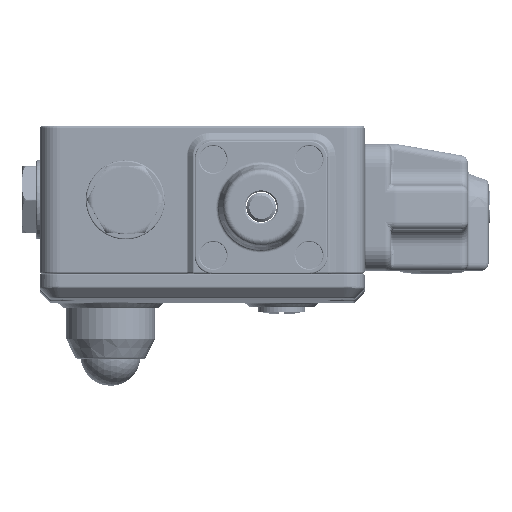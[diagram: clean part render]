
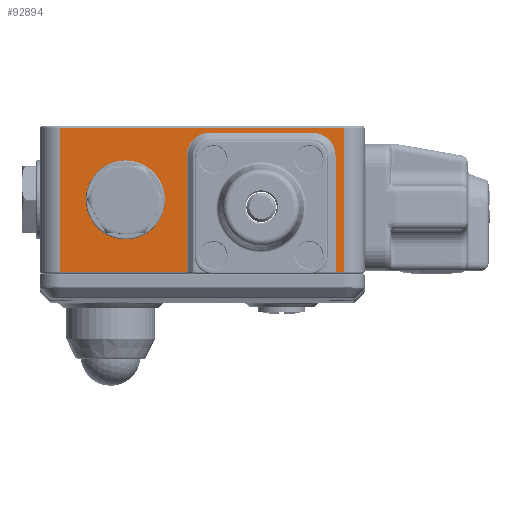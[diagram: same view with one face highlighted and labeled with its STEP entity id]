
A CAD part, left-side view. The second image highlights one B-rep face of the part: STEP entity #92894.
In plain terms, the highlighted planar face has unit normal (-1, 0, 0).
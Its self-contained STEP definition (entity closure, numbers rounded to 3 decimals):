
#579 = CARTESIAN_POINT ( 'NONE',  ( 0., -92.5, 47.707 ) ) ;
#828 = DIRECTION ( 'NONE',  ( 0., 1., 0. ) ) ;
#5669 = CARTESIAN_POINT ( 'NONE',  ( 0., -100.207, 50. ) ) ;
#5673 = ORIENTED_EDGE ( 'NONE', *, *, #161925, .T. ) ;
#5827 = DIRECTION ( 'NONE',  ( 0., 1., 0. ) ) ;
#11382 = ORIENTED_EDGE ( 'NONE', *, *, #161888, .T. ) ;
#12007 = CARTESIAN_POINT ( 'NONE',  ( 0., 0., 47.707 ) ) ;
#16550 = VERTEX_POINT ( 'NONE', #59656 ) ;
#19014 = CARTESIAN_POINT ( 'NONE',  ( 0., 0., 0.7 ) ) ;
#20240 = CARTESIAN_POINT ( 'NONE',  ( 0., -7., 49.3 ) ) ;
#21918 = AXIS2_PLACEMENT_3D ( 'NONE', #41845, #139207, #55820 ) ;
#22722 = VERTEX_POINT ( 'NONE', #109713 ) ;
#26872 = VECTOR ( 'NONE', #41609, 1000. ) ;
#27058 = DIRECTION ( 'NONE',  ( 1., 0., 0. ) ) ;
#27604 = ORIENTED_EDGE ( 'NONE', *, *, #43100, .T. ) ;
#27644 = CARTESIAN_POINT ( 'NONE',  ( 0., -103., 50. ) ) ;
#29023 = CIRCLE ( 'NONE', #63872, 7.707 ) ;
#29511 = ORIENTED_EDGE ( 'NONE', *, *, #81948, .T. ) ;
#30307 = CARTESIAN_POINT ( 'NONE',  ( 0., -49.793, 0.7 ) ) ;
#31184 = LINE ( 'NONE', #27644, #26872 ) ;
#39202 = LINE ( 'NONE', #19014, #71745 ) ;
#40272 = VERTEX_POINT ( 'NONE', #156531 ) ;
#41120 = VERTEX_POINT ( 'NONE', #107290 ) ;
#41609 = DIRECTION ( 'NONE',  ( 0., 0., 1. ) ) ;
#41845 = CARTESIAN_POINT ( 'NONE',  ( 0., -29., 25. ) ) ;
#42091 = ORIENTED_EDGE ( 'NONE', *, *, #46542, .T. ) ;
#42178 = CARTESIAN_POINT ( 'NONE',  ( 0., -7., 50. ) ) ;
#43100 = EDGE_CURVE ( 'NONE', #180505, #41120, #135935, .T. ) ;
#44917 = CARTESIAN_POINT ( 'NONE',  ( 0., -7., 0.7 ) ) ;
#46542 = EDGE_CURVE ( 'NONE', #59522, #16550, #178074, .T. ) ;
#47465 = LINE ( 'NONE', #66496, #80089 ) ;
#50439 = ORIENTED_EDGE ( 'NONE', *, *, #104370, .T. ) ;
#50473 = CARTESIAN_POINT ( 'NONE',  ( 0., -103., 0.7 ) ) ;
#55820 = DIRECTION ( 'NONE',  ( 0., 1., 0. ) ) ;
#56299 = PLANE ( 'NONE',  #86906 ) ;
#59522 = VERTEX_POINT ( 'NONE', #69491 ) ;
#59656 = CARTESIAN_POINT ( 'NONE',  ( 0., -29., 36. ) ) ;
#61770 = VERTEX_POINT ( 'NONE', #30307 ) ;
#61863 = VECTOR ( 'NONE', #74388, 1000. ) ;
#63872 = AXIS2_PLACEMENT_3D ( 'NONE', #69784, #167203, #83759 ) ;
#64194 = VERTEX_POINT ( 'NONE', #44917 ) ;
#66496 = CARTESIAN_POINT ( 'NONE',  ( 0., -49.793, 50. ) ) ;
#66814 = VERTEX_POINT ( 'NONE', #579 ) ;
#69491 = CARTESIAN_POINT ( 'NONE',  ( 0., -29., 14. ) ) ;
#69784 = CARTESIAN_POINT ( 'NONE',  ( 0., -57.5, 40. ) ) ;
#69797 = VECTOR ( 'NONE', #83438, 1000. ) ;
#70821 = ORIENTED_EDGE ( 'NONE', *, *, #96287, .T. ) ;
#71745 = VECTOR ( 'NONE', #130399, 1000. ) ;
#74181 = LINE ( 'NONE', #42178, #69797 ) ;
#74388 = DIRECTION ( 'NONE',  ( 0., 0., -1. ) ) ;
#76750 = VERTEX_POINT ( 'NONE', #178536 ) ;
#78083 = CARTESIAN_POINT ( 'NONE',  ( 0., -100.207, 40. ) ) ;
#80089 = VECTOR ( 'NONE', #80522, 1000. ) ;
#80522 = DIRECTION ( 'NONE',  ( 0., 0., 1. ) ) ;
#81948 = EDGE_CURVE ( 'NONE', #171547, #40272, #29023, .T. ) ;
#82405 = LINE ( 'NONE', #20240, #147816 ) ;
#82988 = ORIENTED_EDGE ( 'NONE', *, *, #102136, .T. ) ;
#83438 = DIRECTION ( 'NONE',  ( 0., 0., -1. ) ) ;
#83759 = DIRECTION ( 'NONE',  ( 0., 1., 0. ) ) ;
#84150 = DIRECTION ( 'NONE',  ( 1., 0., 0. ) ) ;
#86906 = AXIS2_PLACEMENT_3D ( 'NONE', #153613, #84150, #828 ) ;
#89136 = DIRECTION ( 'NONE',  ( 1., 0., 0. ) ) ;
#91452 = ORIENTED_EDGE ( 'NONE', *, *, #139573, .T. ) ;
#91743 = VECTOR ( 'NONE', #106170, 1000. ) ;
#92894 = ADVANCED_FACE ( 'NONE', ( #128585, #119850 ), #56299, .F. ) ;
#93925 = CIRCLE ( 'NONE', #21918, 11. ) ;
#94415 = EDGE_CURVE ( 'NONE', #61770, #171547, #47465, .T. ) ;
#96287 = EDGE_CURVE ( 'NONE', #66814, #180505, #136575, .T. ) ;
#102136 = EDGE_CURVE ( 'NONE', #112355, #22722, #31184, .T. ) ;
#104370 = EDGE_CURVE ( 'NONE', #41120, #112355, #128916, .T. ) ;
#106170 = DIRECTION ( 'NONE',  ( 0., -1., 0. ) ) ;
#107071 = LINE ( 'NONE', #12007, #131098 ) ;
#107290 = CARTESIAN_POINT ( 'NONE',  ( 0., -100.207, 0.7 ) ) ;
#107875 = EDGE_LOOP ( 'NONE', ( #27604, #50439, #82988, #154701, #159394, #91452, #149665, #29511, #11382, #70821 ) ) ;
#109713 = CARTESIAN_POINT ( 'NONE',  ( 0., -103., 49.3 ) ) ;
#110373 = CARTESIAN_POINT ( 'NONE',  ( 0., -92.5, 40. ) ) ;
#111715 = EDGE_LOOP ( 'NONE', ( #5673, #42091 ) ) ;
#112355 = VERTEX_POINT ( 'NONE', #50473 ) ;
#119850 = FACE_OUTER_BOUND ( 'NONE', #107875, .T. ) ;
#123452 = DIRECTION ( 'NONE',  ( 0., -1., 0. ) ) ;
#124179 = EDGE_CURVE ( 'NONE', #76750, #64194, #74181, .T. ) ;
#124462 = DIRECTION ( 'NONE',  ( 0., 1., 0. ) ) ;
#126044 = EDGE_CURVE ( 'NONE', #22722, #76750, #82405, .T. ) ;
#128585 = FACE_BOUND ( 'NONE', #111715, .T. ) ;
#128916 = LINE ( 'NONE', #175515, #91743 ) ;
#130399 = DIRECTION ( 'NONE',  ( 0., -1., 0. ) ) ;
#131098 = VECTOR ( 'NONE', #123452, 1000. ) ;
#132818 = DIRECTION ( 'NONE',  ( 0., 1., 0. ) ) ;
#135935 = LINE ( 'NONE', #5669, #61863 ) ;
#136575 = CIRCLE ( 'NONE', #177004, 7.707 ) ;
#139207 = DIRECTION ( 'NONE',  ( 1., 0., 0. ) ) ;
#139573 = EDGE_CURVE ( 'NONE', #64194, #61770, #39202, .T. ) ;
#146035 = CARTESIAN_POINT ( 'NONE',  ( 0., -49.793, 40. ) ) ;
#147816 = VECTOR ( 'NONE', #132818, 1000. ) ;
#149665 = ORIENTED_EDGE ( 'NONE', *, *, #94415, .T. ) ;
#153613 = CARTESIAN_POINT ( 'NONE',  ( 0., 0., 50. ) ) ;
#154701 = ORIENTED_EDGE ( 'NONE', *, *, #126044, .T. ) ;
#156531 = CARTESIAN_POINT ( 'NONE',  ( 0., -57.5, 47.707 ) ) ;
#159394 = ORIENTED_EDGE ( 'NONE', *, *, #124179, .T. ) ;
#161888 = EDGE_CURVE ( 'NONE', #40272, #66814, #107071, .T. ) ;
#161925 = EDGE_CURVE ( 'NONE', #16550, #59522, #93925, .T. ) ;
#167203 = DIRECTION ( 'NONE',  ( 1., 0., 0. ) ) ;
#171547 = VERTEX_POINT ( 'NONE', #146035 ) ;
#172500 = CARTESIAN_POINT ( 'NONE',  ( 0., -29., 25. ) ) ;
#174604 = AXIS2_PLACEMENT_3D ( 'NONE', #172500, #89136, #5827 ) ;
#175515 = CARTESIAN_POINT ( 'NONE',  ( 0., 0., 0.7 ) ) ;
#177004 = AXIS2_PLACEMENT_3D ( 'NONE', #110373, #27058, #124462 ) ;
#178074 = CIRCLE ( 'NONE', #174604, 11. ) ;
#178536 = CARTESIAN_POINT ( 'NONE',  ( 0., -7., 49.3 ) ) ;
#180505 = VERTEX_POINT ( 'NONE', #78083 ) ;
